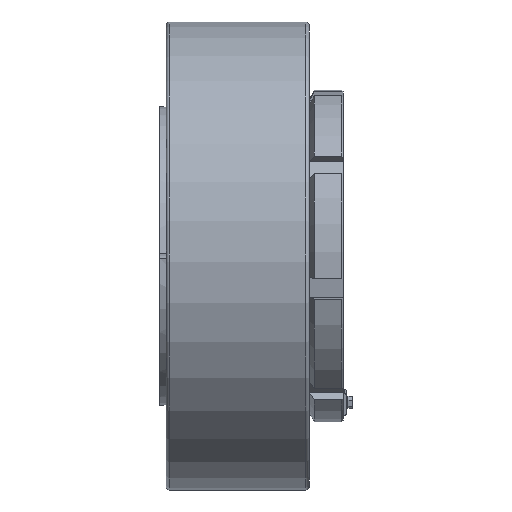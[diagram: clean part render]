
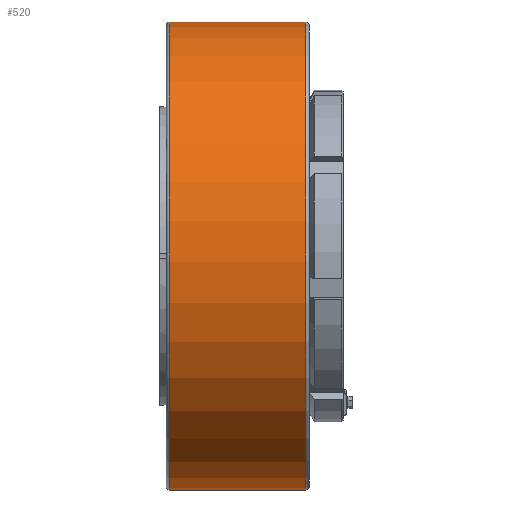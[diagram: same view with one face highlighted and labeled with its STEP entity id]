
A CAD part, front view. The second image highlights one B-rep face of the part: STEP entity #520.
In plain terms, the highlighted cylindrical face has radius 515 mm (diameter 1030 mm), a full revolution.
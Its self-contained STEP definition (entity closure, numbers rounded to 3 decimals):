
#520 = ADVANCED_FACE( '', ( #1169, #1170 ), #1171, .T. );
#1169 = FACE_OUTER_BOUND( '', #1942, .T. );
#1170 = FACE_OUTER_BOUND( '', #1943, .T. );
#1171 = CYLINDRICAL_SURFACE( '', #1944, 515. );
#1942 = EDGE_LOOP( '', ( #4076 ) );
#1943 = EDGE_LOOP( '', ( #4077 ) );
#1944 = AXIS2_PLACEMENT_3D( '', #4078, #4079, #4080 );
#4076 = ORIENTED_EDGE( '', *, *, #5532, .T. );
#4077 = ORIENTED_EDGE( '', *, *, #5546, .F. );
#4078 = CARTESIAN_POINT( '', ( 0., 0., 0. ) );
#4079 = DIRECTION( '', ( -1., 0., 0. ) );
#4080 = DIRECTION( '', ( 0., 0., -1. ) );
#5532 = EDGE_CURVE( '', #6788, #6788, #6789, .T. );
#5546 = EDGE_CURVE( '', #6816, #6816, #6817, .T. );
#6788 = VERTEX_POINT( '', #8837 );
#6789 = CIRCLE( '', #8838, 515. );
#6816 = VERTEX_POINT( '', #8865 );
#6817 = CIRCLE( '', #8866, 515. );
#8837 = CARTESIAN_POINT( '', ( -396.5, 0., -515. ) );
#8838 = AXIS2_PLACEMENT_3D( '', #10408, #10409, #10410 );
#8865 = CARTESIAN_POINT( '', ( -96.5, 0., -515. ) );
#8866 = AXIS2_PLACEMENT_3D( '', #10450, #10451, #10452 );
#10408 = CARTESIAN_POINT( '', ( -396.5, 0., 0. ) );
#10409 = DIRECTION( '', ( 1., 0., 0. ) );
#10410 = DIRECTION( '', ( 0., 0., -1. ) );
#10450 = CARTESIAN_POINT( '', ( -96.5, 0., 0. ) );
#10451 = DIRECTION( '', ( 1., 0., 0. ) );
#10452 = DIRECTION( '', ( 0., 0., -1. ) );
